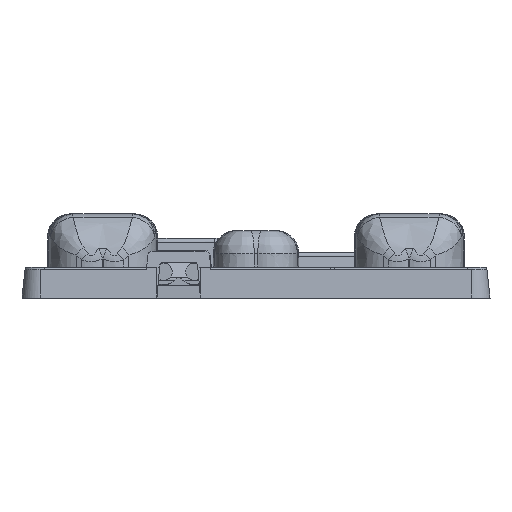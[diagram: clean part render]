
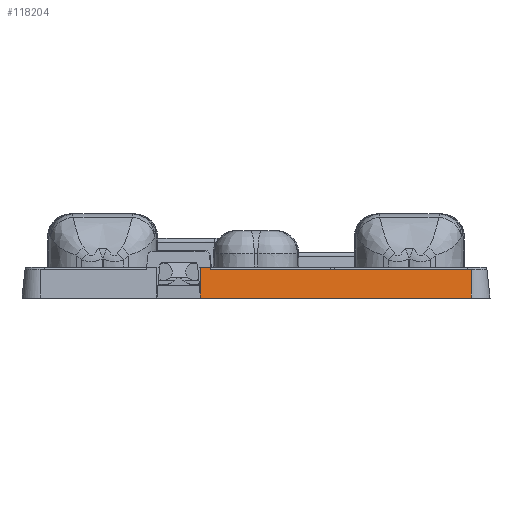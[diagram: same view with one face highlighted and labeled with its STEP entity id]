
A CAD part, left-side view. The second image highlights one B-rep face of the part: STEP entity #118204.
In plain terms, the highlighted planar face has unit normal (-0.995, 0, 0.104).
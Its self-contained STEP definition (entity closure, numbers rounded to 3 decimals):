
#18143=CARTESIAN_POINT('Axis2P3D Location',(-143.002,-28.043,-1.6)) ;
#18263=CARTESIAN_POINT('Vertex',(-142.582,5.916,2.4)) ;
#18370=CARTESIAN_POINT('Vertex',(-142.582,7.241,2.4)) ;
#18373=CARTESIAN_POINT('Line Origine',(-142.582,10.081,2.4)) ;
#18736=CARTESIAN_POINT('Vertex',(-143.002,7.241,-1.6)) ;
#18849=CARTESIAN_POINT('Line Origine',(-142.792,7.241,0.4)) ;
#118078=CARTESIAN_POINT('Vertex',(-143.002,-28.043,-1.6)) ;
#118081=CARTESIAN_POINT('Line Origine',(-143.002,-10.401,-1.6)) ;
#118177=CARTESIAN_POINT('Line Origine',(-142.596,5.904,2.265)) ;
#118181=CARTESIAN_POINT('Vertex',(-142.61,5.892,2.131)) ;
#118184=CARTESIAN_POINT('Line Origine',(-142.806,-28.043,0.265)) ;
#118188=CARTESIAN_POINT('Vertex',(-142.61,-28.043,2.131)) ;
#118191=CARTESIAN_POINT('Line Origine',(-142.61,-11.075,2.131)) ;
#18144=DIRECTION('Axis2P3D Direction',(-0.995,0.,0.105)) ;
#18145=DIRECTION('Axis2P3D XDirection',(0.105,0.,0.995)) ;
#18374=DIRECTION('Vector Direction',(0.,-1.,0.)) ;
#18850=DIRECTION('Vector Direction',(0.105,0.,0.995)) ;
#118082=DIRECTION('Vector Direction',(0.,1.,0.)) ;
#118178=DIRECTION('Vector Direction',(0.104,0.087,0.991)) ;
#118185=DIRECTION('Vector Direction',(0.105,0.,0.995)) ;
#118192=DIRECTION('Vector Direction',(0.,1.,0.)) ;
#18146=AXIS2_PLACEMENT_3D('Plane Axis2P3D',#18143,#18144,#18145) ;
#118197=ORIENTED_EDGE('',*,*,#118183,.F.) ;
#118198=ORIENTED_EDGE('',*,*,#18377,.F.) ;
#118199=ORIENTED_EDGE('',*,*,#18853,.T.) ;
#118200=ORIENTED_EDGE('',*,*,#118085,.F.) ;
#118201=ORIENTED_EDGE('',*,*,#118190,.F.) ;
#118202=ORIENTED_EDGE('',*,*,#118195,.T.) ;
#18375=VECTOR('Line Direction',#18374,1.) ;
#18851=VECTOR('Line Direction',#18850,1.) ;
#118083=VECTOR('Line Direction',#118082,1.) ;
#118179=VECTOR('Line Direction',#118178,1.) ;
#118186=VECTOR('Line Direction',#118185,1.) ;
#118193=VECTOR('Line Direction',#118192,1.) ;
#118204=ADVANCED_FACE('Florence-ZT25',(#118203),#18147,.T.) ;
#18377=EDGE_CURVE('',#18371,#18264,#18376,.T.) ;
#18853=EDGE_CURVE('',#18371,#18737,#18852,.F.) ;
#118085=EDGE_CURVE('',#118079,#18737,#118084,.T.) ;
#118183=EDGE_CURVE('',#18264,#118182,#118180,.F.) ;
#118190=EDGE_CURVE('',#118189,#118079,#118187,.F.) ;
#118195=EDGE_CURVE('',#118189,#118182,#118194,.T.) ;
#118196=EDGE_LOOP('',(#118197,#118198,#118199,#118200,#118201,#118202)) ;
#118203=FACE_OUTER_BOUND('',#118196,.T.) ;
#18376=LINE('Line',#18373,#18375) ;
#18852=LINE('Line',#18849,#18851) ;
#118084=LINE('Line',#118081,#118083) ;
#118180=LINE('Line',#118177,#118179) ;
#118187=LINE('Line',#118184,#118186) ;
#118194=LINE('Line',#118191,#118193) ;
#18147=PLANE('',#18146) ;
#18264=VERTEX_POINT('',#18263) ;
#18371=VERTEX_POINT('',#18370) ;
#18737=VERTEX_POINT('',#18736) ;
#118079=VERTEX_POINT('',#118078) ;
#118182=VERTEX_POINT('',#118181) ;
#118189=VERTEX_POINT('',#118188) ;
